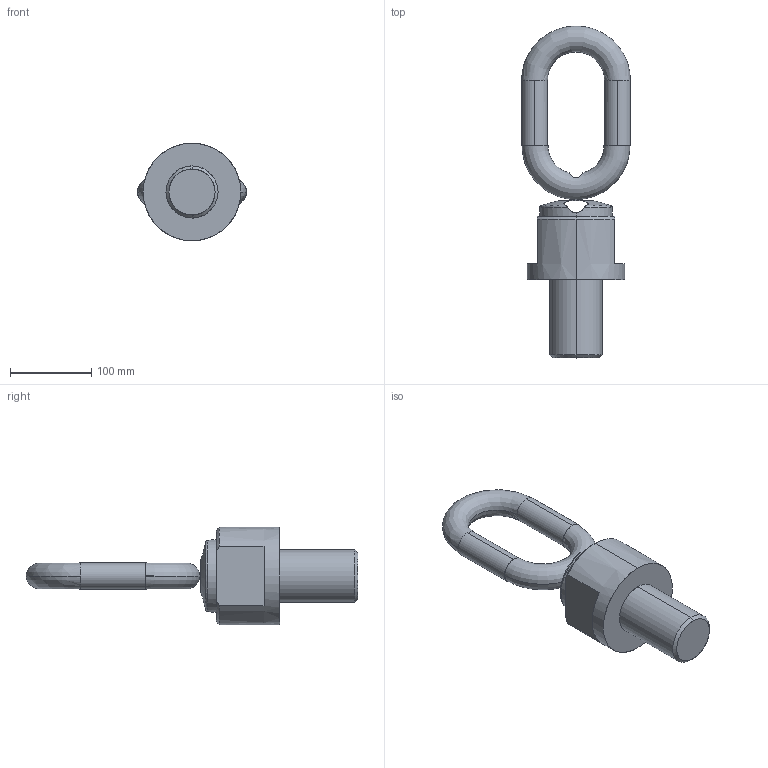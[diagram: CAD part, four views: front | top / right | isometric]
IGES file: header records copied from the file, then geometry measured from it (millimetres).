
Start section: START RECORD GO HERE.
Global section: file name: C8001506496.igs; native system: DASSAULT SYSTEMES CATIA V5 R20 - www.3ds.com; preprocessor: CATIA Version 5 Release 20 ; author: Utente; organization: NB04-ASUS; date: 20200412.160804; units: millimetre
Bounding box: 134 x 408 x 120 mm (x, y, z)
Surface area: 119642.5 mm2 (no closed solid volume)
Topology: 0 solids, 0 shells, 36 faces, 176 edges, 176 vertices
Faces by surface type: revolution 24, extrusion 12
